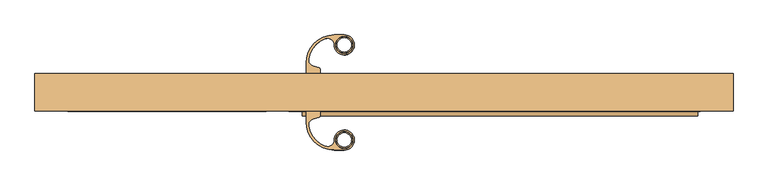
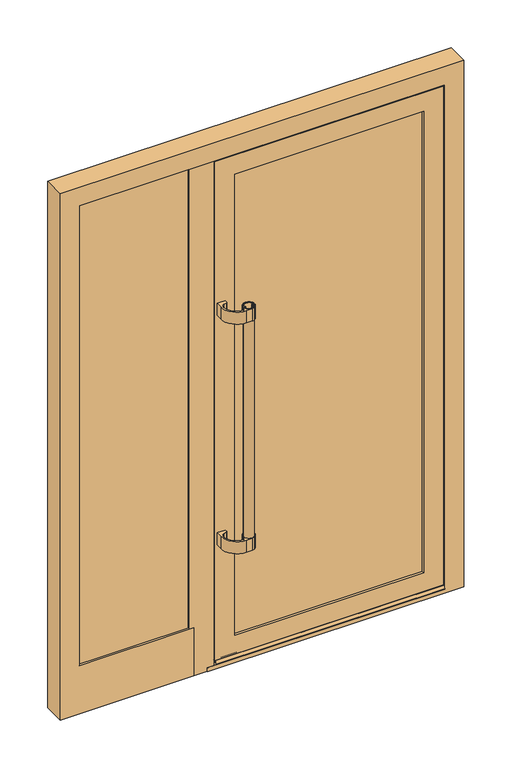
"""IFC4 building model written with IfcOpenShell, lengths in millimetres: door geometry, Jednokrilna vrata s fiksnim poljem__ : Jednokrilna vrata s fiksnim poljem__."""

from ifc_helpers import new_model, si_unit, point, frame, frame_2d, origin, place, context, project, spatial, polyline, circle_curve, trimmed, segment, composite_curve, outline, extrude, faceted_brep, source, transform, mapped, element, save
from ifc_brep_helpers import plane_surface, cylinder_surface, advanced_brep


def door_369b09e6(model_context):
    return source(origin(), model_context, "Body", "SolidModel", [
        extrude(outline(composite_curve([segment(trimmed(circle_curve(frame_2d((-89.9531225, -125.4548223)), 19.0), [point((-108.9531225, -125.4548223))], [point((-70.9531225, -125.4548223))], False, "CARTESIAN"), True, "CONTINUOUS"), segment(trimmed(circle_curve(frame_2d((-89.9531225, -125.4548223)), 19.0), [point((-70.9531225, -125.4548223))], [point((-108.9531225, -125.4548223))], False, "CARTESIAN"), True, "CONTINUOUS")], self_intersect=False), holes=[composite_curve([segment(polyline([(-103.317107, -126.5508378), (-102.1705057, -126.5508378), (-102.1705057, -127.5219871)]), True, "CONTINUOUS"), segment(trimmed(circle_curve(frame_2d((-104.4131225, -125.4548223)), 3.05), [point((-102.1705057, -127.5219871))], [point((-104.4131225, -128.5048223))], False, "CARTESIAN"), True, "CONTINUOUS"), segment(polyline([(-104.4131225, -128.5048223), (-105.6597294, -128.5048223)]), True, "CONTINUOUS"), segment(trimmed(circle_curve(frame_2d((-89.9531225, -125.4548223)), 16.0), [point((-105.6597294, -128.5048223))], [point((-74.2465156, -128.5048223))], True, "CARTESIAN"), True, "CONTINUOUS"), segment(polyline([(-74.2465156, -128.5048223), (-75.4531225, -128.5048223)]), True, "CONTINUOUS"), segment(trimmed(circle_curve(frame_2d((-75.4531225, -125.4548223)), 3.05), [point((-75.4531225, -128.5048223))], [point((-77.6957393, -127.5219871))], False, "CARTESIAN"), True, "CONTINUOUS"), segment(polyline([(-77.6957393, -127.5219871), (-77.6957393, -126.5508378), (-76.549138, -126.5508378)]), True, "CONTINUOUS"), segment(trimmed(circle_curve(frame_2d((-75.4531225, -125.4548223)), 1.55), [point((-76.549138, -126.5508378))], [point((-76.549138, -124.3588068))], True, "CARTESIAN"), True, "CONTINUOUS"), segment(polyline([(-76.549138, -124.3588068), (-77.6957393, -124.3588068), (-77.6957393, -123.3876576)]), True, "CONTINUOUS"), segment(trimmed(circle_curve(frame_2d((-75.4531225, -125.4548223)), 3.05), [point((-77.6957393, -123.3876576))], [point((-75.4531225, -122.4048223))], False, "CARTESIAN"), True, "CONTINUOUS"), segment(polyline([(-75.4531225, -122.4048223), (-74.2465156, -122.4048223)]), True, "CONTINUOUS"), segment(trimmed(circle_curve(frame_2d((-89.9531225, -125.4548223)), 16.0), [point((-74.2465156, -122.4048223))], [point((-105.6597294, -122.4048223))], True, "CARTESIAN"), True, "CONTINUOUS"), segment(polyline([(-105.6597294, -122.4048223), (-104.4131225, -122.4048223)]), True, "CONTINUOUS"), segment(trimmed(circle_curve(frame_2d((-104.4131225, -125.4548223)), 3.05), [point((-104.4131225, -122.4048223))], [point((-102.1705057, -123.3876576))], False, "CARTESIAN"), True, "CONTINUOUS"), segment(polyline([(-102.1705057, -123.3876576), (-102.1705057, -124.3588068), (-103.317107, -124.3588068)]), True, "CONTINUOUS"), segment(trimmed(circle_curve(frame_2d((-104.4131225, -125.4548223)), 1.55), [point((-103.317107, -124.3588068))], [point((-103.317107, -126.5508378))], True, "CARTESIAN"), True, "CONTINUOUS")], self_intersect=False)]), frame((0.0, 0.0, 511.625), z_axis=(0.0, 0.0, 1.0), x_axis=(1.0, 0.0, 0.0)), (0.0, 0.0, 1.0), 1000.0),
        extrude(outline(composite_curve([segment(polyline([(-171.4999996, -60.0070601), (-144.4999996, -60.0070601), (-144.4999996, -69.3089889)]), True, "CONTINUOUS"), segment(trimmed(circle_curve(frame_2d((-149.4999996, -69.3089889)), 5.0), [point((-144.4999996, -69.3089889))], [point((-148.2059044, -74.1386181))], False, "CARTESIAN"), True, "CONTINUOUS"), segment(polyline([(-148.2059044, -74.1386181), (-159.7362516, -77.2281653)]), True, "CONTINUOUS"), segment(trimmed(circle_curve(frame_2d((-155.8529783, -91.7207385)), 15.0038159), [point((-159.7362516, -77.2281653))], [point((-170.5678456, -94.6511262))], True, "CARTESIAN"), True, "CONTINUOUS"), segment(trimmed(circle_curve(frame_2d((-112.5723369, -84.2655205)), 58.9180773), [point((-170.5678456, -94.6511262))], [point((-132.8709763, -139.5765056))], True, "CARTESIAN"), True, "CONTINUOUS"), segment(trimmed(circle_curve(frame_2d((-127.7031142, -125.4947959)), 15.0000449), [point((-132.8709763, -139.5765056))], [point((-112.7031225, -125.4548223))], True, "CARTESIAN"), True, "CONTINUOUS"), segment(trimmed(circle_curve(frame_2d((-90.0714899, -125.3945111)), 22.631713), [point((-112.7031225, -125.4548223))], [point((-103.325237, -107.0496857))], False, "CARTESIAN"), True, "CONTINUOUS"), segment(trimmed(circle_curve(frame_2d((-89.958181, -125.5513446)), 22.8251959), [point((-103.325237, -107.0496857))], [point((-74.7304012, -108.5482775))], False, "CARTESIAN"), True, "CONTINUOUS"), segment(trimmed(circle_curve(frame_2d((-89.8753853, -125.4588964)), 22.7010919), [point((-74.7304012, -108.5482775))], [point((-76.581008, -143.8599589))], False, "CARTESIAN"), True, "CONTINUOUS"), segment(trimmed(circle_curve(frame_2d((-90.0172669, -125.2625146)), 22.9433648), [point((-76.581008, -143.8599589))], [point((-89.5988218, -148.2020633))], False, "CARTESIAN"), True, "CONTINUOUS"), segment(polyline([(-89.5988218, -148.2020633), (-112.5027587, -148.2020633)]), True, "CONTINUOUS"), segment(trimmed(circle_curve(frame_2d((-112.5027587, -84.2048223)), 63.997241), [point((-112.5027587, -148.2020633))], [point((-176.4999996, -84.2048223))], False, "CARTESIAN"), True, "CONTINUOUS"), segment(polyline([(-176.4999996, -84.2048223), (-176.4999996, -60.0070601), (-171.4999996, -60.0070601)]), True, "CONTINUOUS")], self_intersect=False), holes=[composite_curve([segment(trimmed(circle_curve(frame_2d((-89.9531225, -125.4548223)), 19.25), [point((-109.2031225, -125.4548223))], [point((-70.7031225, -125.4548223))], True, "CARTESIAN"), True, "CONTINUOUS"), segment(trimmed(circle_curve(frame_2d((-89.9531225, -125.4548223)), 19.25), [point((-70.7031225, -125.4548223))], [point((-109.2031225, -125.4548223))], True, "CARTESIAN"), True, "CONTINUOUS")], self_intersect=False)]), frame((0.0, 0.0, 1461.625), z_axis=(0.0, 0.0, 1.0), x_axis=(1.0, 0.0, 0.0)), (0.0, 0.0, 1.0), 50.0),
        extrude(outline(composite_curve([segment(polyline([(-171.4999996, -60.0070601), (-144.4999996, -60.0070601), (-144.4999996, -69.3089889)]), True, "CONTINUOUS"), segment(trimmed(circle_curve(frame_2d((-149.4999996, -69.3089889)), 5.0), [point((-144.4999996, -69.3089889))], [point((-148.2059044, -74.1386181))], False, "CARTESIAN"), True, "CONTINUOUS"), segment(polyline([(-148.2059044, -74.1386181), (-159.7362516, -77.2281653)]), True, "CONTINUOUS"), segment(trimmed(circle_curve(frame_2d((-155.8529783, -91.7207385)), 15.0038159), [point((-159.7362516, -77.2281653))], [point((-170.5678456, -94.6511262))], True, "CARTESIAN"), True, "CONTINUOUS"), segment(trimmed(circle_curve(frame_2d((-112.5723369, -84.2655205)), 58.9180773), [point((-170.5678456, -94.6511262))], [point((-132.8709763, -139.5765056))], True, "CARTESIAN"), True, "CONTINUOUS"), segment(trimmed(circle_curve(frame_2d((-127.7031142, -125.4947959)), 15.0000449), [point((-132.8709763, -139.5765056))], [point((-112.7031225, -125.4548223))], True, "CARTESIAN"), True, "CONTINUOUS"), segment(trimmed(circle_curve(frame_2d((-90.0714899, -125.3945111)), 22.631713), [point((-112.7031225, -125.4548223))], [point((-103.325237, -107.0496857))], False, "CARTESIAN"), True, "CONTINUOUS"), segment(trimmed(circle_curve(frame_2d((-89.958181, -125.5513446)), 22.8251959), [point((-103.325237, -107.0496857))], [point((-74.7304012, -108.5482775))], False, "CARTESIAN"), True, "CONTINUOUS"), segment(trimmed(circle_curve(frame_2d((-89.8753853, -125.4588964)), 22.7010919), [point((-74.7304012, -108.5482775))], [point((-76.581008, -143.8599589))], False, "CARTESIAN"), True, "CONTINUOUS"), segment(trimmed(circle_curve(frame_2d((-90.0172669, -125.2625146)), 22.9433648), [point((-76.581008, -143.8599589))], [point((-89.5988218, -148.2020633))], False, "CARTESIAN"), True, "CONTINUOUS"), segment(polyline([(-89.5988218, -148.2020633), (-112.5027587, -148.2020633)]), True, "CONTINUOUS"), segment(trimmed(circle_curve(frame_2d((-112.5027587, -84.2048223)), 63.997241), [point((-112.5027587, -148.2020633))], [point((-176.4999996, -84.2048223))], False, "CARTESIAN"), True, "CONTINUOUS"), segment(polyline([(-176.4999996, -84.2048223), (-176.4999996, -60.0070601), (-171.4999996, -60.0070601)]), True, "CONTINUOUS")], self_intersect=False), holes=[composite_curve([segment(trimmed(circle_curve(frame_2d((-89.9531225, -125.4548223)), 19.25), [point((-109.2031225, -125.4548223))], [point((-70.7031225, -125.4548223))], True, "CARTESIAN"), True, "CONTINUOUS"), segment(trimmed(circle_curve(frame_2d((-89.9531225, -125.4548223)), 19.25), [point((-70.7031225, -125.4548223))], [point((-109.2031225, -125.4548223))], True, "CARTESIAN"), True, "CONTINUOUS")], self_intersect=False)]), frame((0.0, 0.0, 511.625), z_axis=(0.0, 0.0, 1.0), x_axis=(1.0, 0.0, 0.0)), (0.0, 0.0, 1.0), 50.0),
        extrude(outline(composite_curve([segment(trimmed(circle_curve(frame_2d((-89.9531225, 90.4477622)), 19.0), [point((-108.9531225, 90.4477622))], [point((-70.9531225, 90.4477622))], False, "CARTESIAN"), True, "CONTINUOUS"), segment(trimmed(circle_curve(frame_2d((-89.9531225, 90.4477622)), 19.0), [point((-70.9531225, 90.4477622))], [point((-108.9531225, 90.4477622))], False, "CARTESIAN"), True, "CONTINUOUS")], self_intersect=False), holes=[composite_curve([segment(trimmed(circle_curve(frame_2d((-104.4131225, 90.4477622)), 1.55), [point((-103.317107, 91.5437777))], [point((-103.317107, 89.3517467))], True, "CARTESIAN"), True, "CONTINUOUS"), segment(polyline([(-103.317107, 89.3517467), (-102.1705057, 89.3517467), (-102.1705057, 88.3805975)]), True, "CONTINUOUS"), segment(trimmed(circle_curve(frame_2d((-104.4131225, 90.4477622)), 3.05), [point((-102.1705057, 88.3805975))], [point((-104.4131225, 87.3977622))], False, "CARTESIAN"), True, "CONTINUOUS"), segment(polyline([(-104.4131225, 87.3977622), (-105.6597294, 87.3977622)]), True, "CONTINUOUS"), segment(trimmed(circle_curve(frame_2d((-89.9531225, 90.4477622)), 16.0), [point((-105.6597294, 87.3977622))], [point((-74.2465156, 87.3977622))], True, "CARTESIAN"), True, "CONTINUOUS"), segment(polyline([(-74.2465156, 87.3977622), (-75.4531225, 87.3977622)]), True, "CONTINUOUS"), segment(trimmed(circle_curve(frame_2d((-75.4531225, 90.4477622)), 3.05), [point((-75.4531225, 87.3977622))], [point((-77.6957393, 88.3805975))], False, "CARTESIAN"), True, "CONTINUOUS"), segment(polyline([(-77.6957393, 88.3805975), (-77.6957393, 89.3517467), (-76.549138, 89.3517467)]), True, "CONTINUOUS"), segment(trimmed(circle_curve(frame_2d((-75.4531225, 90.4477622)), 1.55), [point((-76.549138, 89.3517467))], [point((-76.549138, 91.5437777))], True, "CARTESIAN"), True, "CONTINUOUS"), segment(polyline([(-76.549138, 91.5437777), (-77.6957393, 91.5437777), (-77.6957393, 92.514927)]), True, "CONTINUOUS"), segment(trimmed(circle_curve(frame_2d((-75.4531225, 90.4477622)), 3.05), [point((-77.6957393, 92.514927))], [point((-75.4531225, 93.4977622))], False, "CARTESIAN"), True, "CONTINUOUS"), segment(polyline([(-75.4531225, 93.4977622), (-74.2465156, 93.4977622)]), True, "CONTINUOUS"), segment(trimmed(circle_curve(frame_2d((-89.9531225, 90.4477622)), 16.0), [point((-74.2465156, 93.4977622))], [point((-105.6597294, 93.4977622))], True, "CARTESIAN"), True, "CONTINUOUS"), segment(polyline([(-105.6597294, 93.4977622), (-104.4131225, 93.4977622)]), True, "CONTINUOUS"), segment(trimmed(circle_curve(frame_2d((-104.4131225, 90.4477622)), 3.05), [point((-104.4131225, 93.4977622))], [point((-102.1705057, 92.514927))], False, "CARTESIAN"), True, "CONTINUOUS"), segment(polyline([(-102.1705057, 92.514927), (-102.1705057, 91.5437777), (-103.317107, 91.5437777)]), True, "CONTINUOUS")], self_intersect=False)]), frame((0.0, 0.0, 511.625), z_axis=(0.0, 0.0, 1.0), x_axis=(1.0, 0.0, 0.0)), (0.0, 0.0, 1.0), 1000.0),
        extrude(outline(composite_curve([segment(polyline([(-171.4999996, 25.0), (-176.4999996, 25.0), (-176.4999996, 49.1977622)]), True, "CONTINUOUS"), segment(trimmed(circle_curve(frame_2d((-112.5027587, 49.1977622)), 63.997241), [point((-176.4999996, 49.1977622))], [point((-112.5027587, 113.1950032))], False, "CARTESIAN"), True, "CONTINUOUS"), segment(polyline([(-112.5027587, 113.1950032), (-89.5988218, 113.1950032)]), True, "CONTINUOUS"), segment(trimmed(circle_curve(frame_2d((-90.0172669, 90.2554545)), 22.9433648), [point((-89.5988218, 113.1950032))], [point((-76.581008, 108.8528989))], False, "CARTESIAN"), True, "CONTINUOUS"), segment(trimmed(circle_curve(frame_2d((-89.8753853, 90.4518363)), 22.7010919), [point((-76.581008, 108.8528989))], [point((-74.7304012, 73.5412175))], False, "CARTESIAN"), True, "CONTINUOUS"), segment(trimmed(circle_curve(frame_2d((-89.958181, 90.5442845)), 22.8251959), [point((-74.7304012, 73.5412175))], [point((-103.325237, 72.0426256))], False, "CARTESIAN"), True, "CONTINUOUS"), segment(trimmed(circle_curve(frame_2d((-90.0714899, 90.3874511)), 22.631713), [point((-103.325237, 72.0426256))], [point((-112.7031225, 90.4477622))], False, "CARTESIAN"), True, "CONTINUOUS"), segment(trimmed(circle_curve(frame_2d((-127.7031142, 90.4877358)), 15.0000449), [point((-112.7031225, 90.4477622))], [point((-132.8709763, 104.5694455))], True, "CARTESIAN"), True, "CONTINUOUS"), segment(trimmed(circle_curve(frame_2d((-112.5723369, 49.2584604)), 58.9180773), [point((-132.8709763, 104.5694455))], [point((-170.5678456, 59.6440661))], True, "CARTESIAN"), True, "CONTINUOUS"), segment(trimmed(circle_curve(frame_2d((-155.8529783, 56.7136785)), 15.0038159), [point((-170.5678456, 59.6440661))], [point((-159.7362516, 42.2211052))], True, "CARTESIAN"), True, "CONTINUOUS"), segment(polyline([(-159.7362516, 42.2211052), (-148.2059044, 39.131558)]), True, "CONTINUOUS"), segment(trimmed(circle_curve(frame_2d((-149.4999996, 34.3019289)), 5.0), [point((-148.2059044, 39.131558))], [point((-144.4999996, 34.3019289))], False, "CARTESIAN"), True, "CONTINUOUS"), segment(polyline([(-144.4999996, 34.3019289), (-144.4999996, 25.0), (-171.4999996, 25.0)]), True, "CONTINUOUS")], self_intersect=False), holes=[composite_curve([segment(trimmed(circle_curve(frame_2d((-89.9531225, 90.4477622)), 19.25), [point((-109.2031225, 90.4477622))], [point((-70.7031225, 90.4477622))], True, "CARTESIAN"), True, "CONTINUOUS"), segment(trimmed(circle_curve(frame_2d((-89.9531225, 90.4477622)), 19.25), [point((-70.7031225, 90.4477622))], [point((-109.2031225, 90.4477622))], True, "CARTESIAN"), True, "CONTINUOUS")], self_intersect=False)]), frame((0.0, 0.0, 1461.625), z_axis=(0.0, 0.0, 1.0), x_axis=(1.0, 0.0, 0.0)), (0.0, 0.0, 1.0), 50.0),
        extrude(outline(composite_curve([segment(polyline([(-171.4999996, 25.0), (-176.4999996, 25.0), (-176.4999996, 49.1977622)]), True, "CONTINUOUS"), segment(trimmed(circle_curve(frame_2d((-112.5027587, 49.1977622)), 63.997241), [point((-176.4999996, 49.1977622))], [point((-112.5027587, 113.1950032))], False, "CARTESIAN"), True, "CONTINUOUS"), segment(polyline([(-112.5027587, 113.1950032), (-89.5988218, 113.1950032)]), True, "CONTINUOUS"), segment(trimmed(circle_curve(frame_2d((-90.0172669, 90.2554545)), 22.9433648), [point((-89.5988218, 113.1950032))], [point((-76.581008, 108.8528989))], False, "CARTESIAN"), True, "CONTINUOUS"), segment(trimmed(circle_curve(frame_2d((-89.8753853, 90.4518363)), 22.7010919), [point((-76.581008, 108.8528989))], [point((-74.7304012, 73.5412175))], False, "CARTESIAN"), True, "CONTINUOUS"), segment(trimmed(circle_curve(frame_2d((-89.958181, 90.5442845)), 22.8251959), [point((-74.7304012, 73.5412175))], [point((-103.325237, 72.0426256))], False, "CARTESIAN"), True, "CONTINUOUS"), segment(trimmed(circle_curve(frame_2d((-90.0714899, 90.3874511)), 22.631713), [point((-103.325237, 72.0426256))], [point((-112.7031225, 90.4477622))], False, "CARTESIAN"), True, "CONTINUOUS"), segment(trimmed(circle_curve(frame_2d((-127.7031142, 90.4877358)), 15.0000449), [point((-112.7031225, 90.4477622))], [point((-132.8709763, 104.5694455))], True, "CARTESIAN"), True, "CONTINUOUS"), segment(trimmed(circle_curve(frame_2d((-112.5723369, 49.2584604)), 58.9180773), [point((-132.8709763, 104.5694455))], [point((-170.5678456, 59.6440661))], True, "CARTESIAN"), True, "CONTINUOUS"), segment(trimmed(circle_curve(frame_2d((-155.8529783, 56.7136785)), 15.0038159), [point((-170.5678456, 59.6440661))], [point((-159.7362516, 42.2211052))], True, "CARTESIAN"), True, "CONTINUOUS"), segment(polyline([(-159.7362516, 42.2211052), (-148.2059044, 39.131558)]), True, "CONTINUOUS"), segment(trimmed(circle_curve(frame_2d((-149.4999996, 34.3019289)), 5.0), [point((-148.2059044, 39.131558))], [point((-144.4999996, 34.3019289))], False, "CARTESIAN"), True, "CONTINUOUS"), segment(polyline([(-144.4999996, 34.3019289), (-144.4999996, 25.0), (-171.4999996, 25.0)]), True, "CONTINUOUS")], self_intersect=False), holes=[composite_curve([segment(trimmed(circle_curve(frame_2d((-89.9531225, 90.4477622)), 19.25), [point((-109.2031225, 90.4477622))], [point((-70.7031225, 90.4477622))], True, "CARTESIAN"), True, "CONTINUOUS"), segment(trimmed(circle_curve(frame_2d((-89.9531225, 90.4477622)), 19.25), [point((-70.7031225, 90.4477622))], [point((-109.2031225, 90.4477622))], True, "CARTESIAN"), True, "CONTINUOUS")], self_intersect=False)]), frame((0.0, 0.0, 511.625), z_axis=(0.0, 0.0, 1.0), x_axis=(1.0, 0.0, 0.0)), (0.0, 0.0, 1.0), 50.0),
        faceted_brep([(735.4976674, 25.0, 2125.4976678), (735.4976674, 16.646765, 2125.4976674), (735.4976674, 16.646765, 10.0023326), (735.4976674, 25.0, 10.0023322), (-210.0, 25.0, 10.0023322), (-210.0, 25.0, 2125.4976678), (633.0017387, 25.0, 2023.0017387), (-107.5040709, 25.0, 2023.0017387), (-107.5040709, 25.0, 112.4982613), (633.0017387, 25.0, 112.4982613), (-209.9999996, 16.646765, 10.0023326), (-209.9999996, 16.646765, 2125.4976674), (724.4976674, 16.646765, 21.0023326), (-198.9999996, 16.646765, 21.0023326), (-198.9999996, 16.646765, 2114.4976674), (724.4976674, 16.646765, 2114.4976674), (633.0017387, -6.5067387, 112.4982613), (633.0017387, -6.5067387, 2023.0017387), (648.0041526, -6.5067387, 2038.0041526), (-122.5064848, -6.5067387, 2038.0041526), (-122.5064848, -6.5067387, 97.4958474), (648.0041526, -6.5067387, 97.4958474), (-107.5040709, -6.5067387, 112.4982613), (-107.5040709, -6.5067387, 2023.0017387), (648.0041526, -50.5067387, 97.4958474), (648.0041526, -50.5067387, 2038.0041526), (-122.5064848, -50.5067387, 97.4958474), (-122.5064848, -50.5067387, 2038.0041526), (633.0017454, -50.5067387, 2023.0017454), (-107.5040776, -50.5067387, 2023.0017454), (-107.5040776, -50.5067387, 112.4982546), (633.0017454, -50.5067387, 112.4982546), (633.0017454, -59.9999866, 112.4982546), (633.0017454, -59.9999866, 2023.0017454), (710.4976674, -59.9999866, 2100.4976674), (-184.9999996, -59.9999866, 2100.4976674), (-184.9999996, -59.9999866, 35.0023326), (710.4976674, -59.9999866, 34.9982553), (-107.5040776, -59.9999866, 112.4982546), (-107.5040776, -59.9999866, 2023.0017454), (710.4976674, -61.5742517, 34.9982553), (710.4976674, -70.0506954, 25.9083823), (710.4976674, -70.0506954, 23.8818501), (710.4976674, -68.5506954, 23.8818501), (710.4976674, -68.5506954, 25.7574003), (710.4976674, -61.0093813, 33.8444697), (710.4976674, -53.8843606, 33.8444697), (710.4976674, -52.7470601, 32.7030483), (710.4976674, -52.7470601, 23.5977735), (710.4976674, -46.614954, 23.5977735), (710.4976674, -47.6474994, 17.9238758), (710.4976674, -45.1528763, 18.3738347), (710.4976674, -41.7431491, 18.6475959), (710.4976674, -42.6770113, 23.5977735), (710.4976674, -39.7470601, 23.5977735), (710.4976674, -39.7470601, 24.844179), (710.4976674, -51.4963512, 24.8482553), (710.4976674, -51.4963512, 2100.4976674), (720.6517447, -51.4963512, 24.8482553), (720.6517447, -51.4963512, 2110.6517447), (-195.1540769, -51.4963512, 2110.6517447), (-195.1540769, -51.4963512, 24.8482553), (-184.9999996, -51.4963512, 24.8482553), (-184.9999996, -51.4963512, 2100.4976674), (-184.9999996, -39.7470601, 24.8482553), (-195.1540769, 14.7996746, 24.8482553), (720.6517447, 14.7996746, 24.8482553), (-184.9999996, -39.7470601, 23.5977735), (-184.9999996, -42.6770113, 23.5977735), (-184.9999996, -41.7431491, 18.6475959), (-184.9999996, -45.1528763, 18.3738347), (-184.9999996, -47.6474994, 17.9238758), (-184.9999996, -46.614954, 23.5977735), (-184.9999996, -52.7470601, 23.5977735), (-184.9999996, -52.7470601, 32.7030483), (-184.9999996, -53.8843606, 33.8444697), (-184.9999996, -61.0093813, 33.8444697), (-184.9999996, -68.5506954, 25.7574003), (-184.9999996, -68.5506954, 23.8818501), (-184.9999996, -70.0506954, 23.8818501), (-184.9999996, -70.0506954, 25.9083823), (-184.9999996, -61.5742517, 34.9982553), (720.6517447, 14.7996746, 2110.6517447), (724.4976674, 14.7996746, 2114.4976674), (-198.9999996, 14.7996746, 2114.4976674), (-198.9999996, 14.7996746, 21.0023326), (724.4976674, 14.7996746, 21.0023326), (-195.1540769, 14.7996746, 2110.6517447)], [[[0, 1, 2, 3]], [[3, 4, 5, 0], [6, 7, 8, 9]], [[2, 10, 4, 3]], [[1, 11, 10, 2], [12, 13, 14, 15]], [[6, 9, 16, 17]], [[18, 19, 20, 21], [16, 22, 23, 17]], [[9, 8, 22, 16]], [[18, 21, 24, 25]], [[24, 26, 27, 25], [28, 29, 30, 31]], [[21, 20, 26, 24]], [[28, 31, 32, 33]], [[34, 35, 36, 37], [32, 38, 39, 33]], [[31, 30, 38, 32]], [[34, 37, 40, 41, 42, 43, 44, 45, 46, 47, 48, 49, 50, 51, 52, 53, 54, 55, 56, 57]], [[56, 58, 59, 60, 61, 62, 63, 57]], [[58, 56, 55, 64, 62, 61, 65, 66]], [[64, 55, 54, 67]], [[67, 54, 53, 68]], [[68, 53, 52, 69]], [[69, 52, 51, 70]], [[70, 51, 50, 71]], [[71, 50, 49, 72]], [[72, 49, 48, 73]], [[73, 48, 47, 74]], [[74, 47, 46, 75]], [[75, 46, 45, 76]], [[76, 45, 44, 77]], [[77, 44, 43, 78]], [[78, 43, 42, 79]], [[79, 42, 41, 80]], [[80, 41, 40, 81]], [[40, 37, 36, 81]], [[59, 58, 66, 82]], [[83, 84, 85, 86], [66, 65, 87, 82]], [[83, 86, 12, 15]], [[86, 85, 13, 12]], [[10, 11, 5, 4]], [[8, 7, 23, 22]], [[20, 19, 27, 26]], [[30, 29, 39, 38]], [[61, 60, 87, 65]], [[63, 62, 64, 67, 68, 69, 70, 71, 72, 73, 74, 75, 76, 77, 78, 79, 80, 81, 36, 35]], [[85, 84, 14, 13]], [[0, 5, 11, 1]], [[17, 23, 7, 6]], [[25, 27, 19, 18]], [[33, 39, 29, 28]], [[57, 63, 35, 34]], [[82, 87, 60, 59]], [[15, 14, 84, 83]]]),
        extrude(outline(polyline([(648.0041526, -6.5067387), (648.0041526, -50.5067387), (-122.5064848, -50.5067387), (-122.5064848, -6.5067387), (648.0041526, -6.5067387)])), frame((0.0, 0.0, 97.4958474), z_axis=(0.0, 0.0, 1.0), x_axis=(1.0, 0.0, 0.0)), (0.0, 0.0, 1.0), 1940.5083052),
        extrude(outline(polyline([(-746.5, -51.50254), (-746.5, -11.50254), (-266.9998254, -11.50254), (-266.9998254, -51.50254), (-746.5, -51.50254)])), frame((0.0, 0.0, 181.9998283), z_axis=(0.0, 0.0, 1.0), x_axis=(1.0, 0.0, 0.0)), (0.0, 0.0, 1.0), 1940.0000781),
        advanced_brep(
        [(-790.0, 25.0, 0.0), (-214.999824, 25.0, 0.0), (-214.999824, 16.9995935, 0.0), (740.5000062, 16.9995934, 0.0), (740.5000062, 25.0, 0.0), (790.0, 25.0, 0.0), (790.0, -59.9999629, 0.0), (-215.0, -60.0013127, 0.0), (-215.0, -59.499963, 0.0), (-266.9998254, -59.499963, 0.0), (-266.9998254, -59.999963, 0.0), (-790.0, -60.0013127, 0.0), (-790.0, -60.0013127, 2180.0), (-790.0, 25.0, 2180.0), (-266.9998254, -60.0013127, 199.9996501), (-715.5001827, -60.0013127, 199.9996501), (-715.5001827, -60.0013127, 2105.5001827), (715.5001825, -60.0013127, 2105.5001825), (715.5001825, -60.0013127, 15.698548), (-215.0, -60.0013127, 15.6983046), (790.0, -60.0013127, 2180.0), (-266.9998254, -59.499963, 199.9996501), (-284.9996463, -59.499963, 199.9996501), (-215.0, -59.499963, 15.7887338), (-190.0, -59.499963, 15.7887338), (-190.0, -59.499963, 2105.5001825), (-284.9996463, -59.499963, 2105.5001827), (790.0, 25.0, 2180.0), (740.5000062, 25.0, 2130.5000062), (-215.0, 25.0, 2130.5000062), (-718.4799018, 25.0, 196.9998328), (-281.9998299, 25.0, 196.9998328), (-281.9998299, 25.0, 2108.4799018), (-718.4799018, 25.0, 2108.4799018), (740.5000062, 16.9995934, 2130.5000062), (-214.999996, 16.9995935, 2130.5000062), (731.0000063, 16.9995935, 2121.0000063), (-205.499839, 16.9995935, 2121.0000063), (-205.499839, 16.9995935, 15.5020091), (731.0000063, 16.9995935, 15.5020091), (-718.4799018, -11.50254, 2108.4799018), (-718.4799018, -11.50254, 196.9998328), (-281.9998299, -11.50254, 2108.4799018), (-281.9998299, -11.50254, 196.9998328), (715.5001825, -51.5031932, 17.2311231), (731.0000063, -51.5031932, 17.2311231), (731.0000063, -45.1470596, 18.3775885), (-205.499839, -45.1470596, 18.3775885), (-205.499839, -51.0016215, 17.3215924), (-190.0, -51.0016215, 17.3215924), (715.5001825, -51.5031932, 2105.5001825), (-715.5001827, -51.50254, 199.9996501), (-715.5001827, -51.50254, 2105.5001827), (-284.9996463, -51.50254, 199.9996501), (-731.9999063, -51.50254, 2121.9999063), (-266.9998254, -51.50254, 2121.9999063), (-266.9998254, -51.50254, 181.9998283), (-731.9999063, -51.50254, 181.9998283), (-284.9996463, -51.50254, 2105.5001827), (-731.9999063, -11.50254, 181.9998283), (-731.9999063, -11.50254, 2121.9999063), (-266.9998254, -11.50254, 181.9998283), (-266.9998254, -11.50254, 2121.9999063), (-205.499839, -51.0016215, 2121.0000063), (-205.499839, -24.6566293, 20.02273), (-205.499839, -22.8430246, 19.5983726), (-205.499839, -16.0936761, 15.5020091), (731.0000063, -16.0936761, 15.5020091), (731.0000063, -22.8430246, 19.5983726), (731.0000063, -24.6566293, 20.02273), (-190.0, -51.0016215, 2121.0000063), (-190.0, -51.5031932, 2121.0000063), (-190.0, -51.5031932, 2105.5001825), (731.0000063, -51.5031932, 2121.0000063)],
        [
            (0, 1),
            (1, 2),
            (2, 3),
            (3, 4),
            (4, 5),
            (5, 6),
            (6, 7),
            (7, 8),
            (8, 9),
            (9, 10),
            (10, 11),
            (11, 0),
            (11, 12),
            (12, 13),
            (13, 0),
            (14, 15),
            (15, 16),
            (16, 17),
            (17, 18),
            (18, 19),
            (19, 7),
            (6, 20),
            (20, 12),
            (10, 14),
            (9, 21),
            (21, 14),
            (22, 21),
            (8, 23),
            (23, 24),
            (24, 25),
            (25, 26),
            (26, 22),
            (19, 23),
            (27, 20),
            (5, 27),
            (13, 27),
            (4, 28),
            (28, 29),
            (29, 1),
            (30, 31),
            (31, 32),
            (32, 33),
            (33, 30),
            (3, 34),
            (34, 28),
            (2, 35),
            (35, 34),
            (36, 37),
            (37, 38),
            (38, 39),
            (39, 36),
            (29, 35),
            (40, 41),
            (41, 30),
            (33, 40),
            (42, 32),
            (31, 43),
            (43, 42),
            (41, 43),
            (18, 44),
            (44, 45),
            (45, 46),
            (46, 47),
            (47, 48),
            (48, 49),
            (49, 24),
            (50, 44),
            (17, 50),
            (15, 51),
            (51, 52),
            (52, 16),
            (22, 53),
            (53, 51),
            (54, 55),
            (55, 56),
            (56, 57),
            (57, 54),
            (53, 58),
            (58, 52),
            (26, 58),
            (57, 59),
            (59, 60),
            (60, 54),
            (56, 61),
            (61, 59),
            (62, 61),
            (55, 62),
            (62, 60),
            (40, 42),
            (63, 48),
            (47, 64),
            (64, 65, circle_curve(frame((-205.499839, -24.399555, 17.0337648), z_axis=(-1.0, 0.0, 0.0), x_axis=(0.0, 0.5188434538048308, 0.8548692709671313)), 3.0)),
            (65, 66),
            (66, 38),
            (37, 63),
            (66, 67),
            (67, 39),
            (68, 67),
            (65, 68),
            (64, 69),
            (69, 68, circle_curve(frame((731.0000063, -24.399555, 17.0337648), z_axis=(-1.0, 0.0, 0.0), x_axis=(0.0, 0.5188434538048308, 0.8548692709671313)), 3.0)),
            (46, 69),
            (70, 49),
            (63, 70),
            (71, 72),
            (72, 25),
            (70, 71),
            (45, 73),
            (73, 36),
            (50, 72),
            (71, 73),
        ],
        [
            plane_surface(frame((-790.0, 25.0, 0.0), z_axis=(0.0, 0.0, -1.0), x_axis=(0.0, 1.0, 0.0))),
            plane_surface(frame((-790.0, 25.0, 0.0), z_axis=(-1.0, 0.0, 0.0), x_axis=(0.0, 0.0, 1.0))),
            plane_surface(frame((-790.0, -60.0013127, 0.0), z_axis=(0.0, -1.0, 0.0), x_axis=(0.0, 0.0, 1.0))),
            plane_surface(frame((-266.9998254, 25.0, 0.0), z_axis=(1.0, 0.0, 0.0), x_axis=(0.0, 1.0, 0.0))),
            plane_surface(frame((-190.0, -59.499963, 2180.0), z_axis=(0.0, -1.0, 0.0), x_axis=(0.0, 0.0, -1.0))),
            plane_surface(frame((-215.0, -60.0013127, 0.0), z_axis=(-1.0, 0.0, 0.0), x_axis=(0.0, -1.0, 0.0))),
            plane_surface(frame((790.0, 25.0, 2180.0), z_axis=(1.0, 0.0, 0.0), x_axis=(0.0, 0.0, -1.0))),
            plane_surface(frame((-718.4799018, 25.0, 0.0), z_axis=(0.0, 1.0, 0.0), x_axis=(0.0, 0.0, 1.0))),
            plane_surface(frame((740.5000062, 16.9995934, 2130.5000062), z_axis=(-1.0, 0.0, 0.0), x_axis=(0.0, 0.0, -1.0))),
            plane_surface(frame((-214.999824, 16.9995935, 2180.0), z_axis=(0.0, 1.0, 0.0), x_axis=(0.0, 0.0, -1.0))),
            plane_surface(frame((-215.0, 25.0, 2180.0), z_axis=(1.0, 0.0, 0.0), x_axis=(0.0, 1.0, 0.0))),
            plane_surface(frame((-718.4799018, -11.50254, 0.0), z_axis=(1.0, 0.0, 0.0), x_axis=(0.0, 0.0, 1.0))),
            plane_surface(frame((-281.9998299, -11.50254, 2180.0), z_axis=(-1.0, 0.0, 0.0), x_axis=(0.0, 0.0, -1.0))),
            plane_surface(frame((-790.0, 25.0, 196.9998328), z_axis=(0.0, 0.0, 1.0), x_axis=(1.0, 0.0, 0.0))),
            plane_surface(frame((-215.0, -45.1470596, 18.3775885), z_axis=(0.0, -0.17750711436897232, 0.98411951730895), x_axis=(1.0, 0.0, 0.0))),
            plane_surface(frame((715.5001825, -59.9999629, 2105.5001825), z_axis=(-1.0, 0.0, 0.0), x_axis=(0.0, 0.0, -1.0))),
            plane_surface(frame((-715.5001827, -60.0013127, 0.0), z_axis=(1.0, 0.0, 0.0), x_axis=(0.0, 0.0, 1.0))),
            plane_surface(frame((-790.0, -51.50254, 199.9996501), z_axis=(0.0, 0.0, 1.0), x_axis=(1.0, 0.0, 0.0))),
            plane_surface(frame((-715.5001827, -51.50254, 0.0), z_axis=(0.0, 1.0, 0.0), x_axis=(0.0, 0.0, 1.0))),
            plane_surface(frame((-284.9996463, -59.499963, 2180.0), z_axis=(-1.0, 0.0, 0.0), x_axis=(0.0, 0.0, -1.0))),
            plane_surface(frame((-731.9999063, -51.50254, 0.0), z_axis=(1.0, 0.0, 0.0), x_axis=(0.0, 0.0, 1.0))),
            plane_surface(frame((-790.0, -11.50254, 181.9998283), z_axis=(0.0, 0.0, 1.0), x_axis=(1.0, 0.0, 0.0))),
            plane_surface(frame((-266.9998254, -51.50254, 2180.0), z_axis=(-1.0, 0.0, 0.0), x_axis=(0.0, 0.0, -1.0))),
            plane_surface(frame((-731.9999063, -11.50254, 0.0), z_axis=(0.0, -1.0, 0.0), x_axis=(0.0, 0.0, 1.0))),
            plane_surface(frame((-205.499839, 16.9995935, 2180.0), z_axis=(1.0, 0.0, 0.0), x_axis=(0.0, 0.0, -1.0))),
            plane_surface(frame((-215.0, 16.9939631, 15.5020091), z_axis=(0.0, 0.0, 1.0), x_axis=(1.0, 0.0, 0.0))),
            plane_surface(frame((-215.0, -16.0936761, 15.5020091), z_axis=(0.0, 0.5188434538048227, 0.8548692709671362), x_axis=(1.0, 0.0, 0.0))),
            cylinder_surface(frame((-215.0, -24.399555, 17.0337648), z_axis=(-1.0, 0.0, 0.0), x_axis=(0.0, 0.5188434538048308, 0.8548692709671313)), 3.0),
            plane_surface(frame((-215.0, -24.6566293, 20.02273), z_axis=(0.0, -0.08003075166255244, 0.9967923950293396), x_axis=(1.0, 0.0, 0.0))),
            plane_surface(frame((-205.499839, -51.0016215, 2180.0), z_axis=(0.0, 1.0, 0.0), x_axis=(0.0, 0.0, -1.0))),
            plane_surface(frame((-190.0, -51.0016215, 2180.0), z_axis=(1.0, 0.0, 0.0), x_axis=(0.0, 0.0, -1.0))),
            plane_surface(frame((731.0000063, -51.5031932, 2121.0000063), z_axis=(-1.0, 0.0, 0.0), x_axis=(0.0, 0.0, -1.0))),
            plane_surface(frame((-215.0, -51.5031932, 2105.5001825), z_axis=(0.0, 1.0, 0.0), x_axis=(1.0, 0.0, 0.0))),
            plane_surface(frame((-790.0, 25.0, 2180.0), z_axis=(0.0, 0.0, 1.0), x_axis=(1.0, 0.0, 0.0))),
            plane_surface(frame((-715.5001827, -60.0013127, 2105.5001827), z_axis=(0.0, 0.0, -1.0), x_axis=(1.0, 0.0, 0.0))),
            plane_surface(frame((-731.9999063, -51.50254, 2121.9999063), z_axis=(0.0, 0.0, -1.0), x_axis=(1.0, 0.0, 0.0))),
            plane_surface(frame((-718.4799018, -11.50254, 2108.4799018), z_axis=(0.0, 0.0, -1.0), x_axis=(1.0, 0.0, 0.0))),
            plane_surface(frame((-215.0, -51.5031932, 2121.0000063), z_axis=(0.0, 0.0, -1.0), x_axis=(1.0, 0.0, 0.0))),
            plane_surface(frame((-215.0, 16.9995934, 2130.5000062), z_axis=(0.0, 0.0, -1.0), x_axis=(1.0, 0.0, 0.0))),
        ],
        [
            (0, [[1, 2, 3, 4, 5, 6, 7, 8, 9, 10, 11, 12]]),
            (1, [[13, 14, 15, -12]]),
            (2, [[16, 17, 18, 19, 20, 21, -7, 22, 23, -13, -11, 24]]),
            (3, [[-10, 25, 26, -24]]),
            (4, [[27, -25, -9, 28, 29, 30, 31, 32]]),
            (5, [[33, -28, -8, -21]]),
            (6, [[34, -22, -6, 35]]),
            (7, [[36, -35, -5, 37, 38, 39, -1, -15], [40, 41, 42, 43]]),
            (8, [[-37, -4, 44, 45]]),
            (9, [[46, 47, -44, -3], [48, 49, 50, 51]]),
            (10, [[-39, 52, -46, -2]]),
            (11, [[53, 54, -43, 55]]),
            (12, [[56, -41, 57, 58]]),
            (13, [[59, -57, -40, -54]]),
            (14, [[60, 61, 62, 63, 64, 65, 66, -29, -33, -20]]),
            (15, [[67, -60, -19, 68]]),
            (16, [[-17, 69, 70, 71]]),
            (17, [[-26, -27, 72, 73, -69, -16]]),
            (18, [[74, 75, 76, 77], [-73, 78, 79, -70]]),
            (19, [[-72, -32, 80, -78]]),
            (20, [[-77, 81, 82, 83]]),
            (21, [[-76, 84, 85, -81]]),
            (22, [[86, -84, -75, 87]]),
            (23, [[-85, -86, 88, -82], [89, -58, -59, -53]]),
            (24, [[90, -64, 91, 92, 93, 94, -49, 95]]),
            (25, [[-94, 96, 97, -50]]),
            (26, [[98, -96, -93, 99]]),
            (27, [[-92, 100, 101, -99]]),
            (28, [[102, -100, -91, -63]]),
            (29, [[103, -65, -90, 104]]),
            (30, [[105, 106, -30, -66, -103, 107]]),
            (31, [[-51, -97, -98, -101, -102, -62, 108, 109]]),
            (32, [[-108, -61, -67, 110, -105, 111]]),
            (33, [[-23, -34, -36, -14]]),
            (34, [[-79, -80, -31, -106, -110, -68, -18, -71]]),
            (35, [[-88, -87, -74, -83]]),
            (36, [[-42, -56, -89, -55]]),
            (37, [[-111, -107, -104, -95, -48, -109]]),
            (38, [[-47, -52, -38, -45]]),
        ],
    ),
    ])


if __name__ == "__main__":
    model = new_model("IFC4")
    model_context = context("Model", 3, world=origin())
    ifc_project = project(units=[si_unit("LENGTHUNIT", "METRE", prefix="MILLI")], contexts=[model_context])
    site = spatial("IfcSite", under=ifc_project)
    building = spatial("IfcBuilding", under=site)
    placement = place(None, origin())
    door_shape = door_369b09e6(model_context)
    element("IfcDoor", 1, ObjectType="Jednokrilna vrata s fiksnim poljem__ : Jednokrilna vrata s fiksnim poljem__", at=placement, inside=building, context=model_context, shape_type="MappedRepresentation", body=[
        mapped(door_shape, transform((0.0, 0.0, 0.0), x_axis=(1.0, 0.0, 0.0), y_axis=(0.0, 1.0, 0.0), z_axis=(0.0, 0.0, 1.0))),
    ])
    save(model, "model.ifc")
